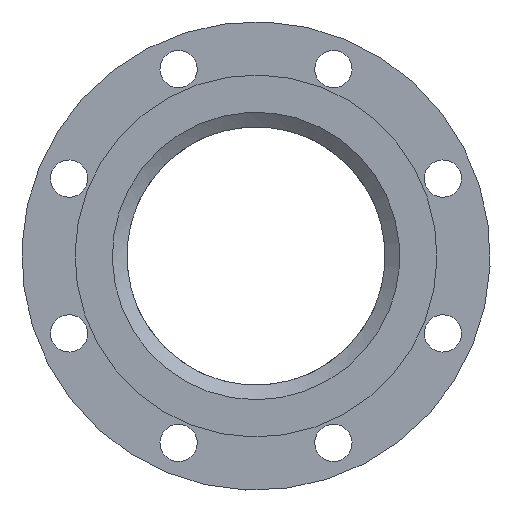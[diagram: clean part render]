
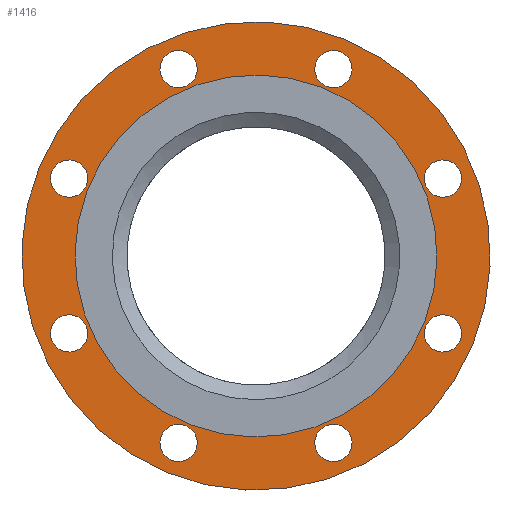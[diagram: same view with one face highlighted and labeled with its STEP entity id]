
A CAD part, front view. The second image highlights one B-rep face of the part: STEP entity #1416.
In plain terms, the highlighted planar face has unit normal (0, -1, 0).
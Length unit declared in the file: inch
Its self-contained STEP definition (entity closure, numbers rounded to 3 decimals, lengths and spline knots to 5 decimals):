
#54=PLANE('',#1554);
#126=FACE_BOUND('',#399,.T.);
#127=FACE_BOUND('',#400,.T.);
#128=FACE_BOUND('',#401,.T.);
#129=FACE_BOUND('',#402,.T.);
#130=FACE_BOUND('',#403,.T.);
#131=FACE_BOUND('',#404,.T.);
#132=FACE_BOUND('',#405,.T.);
#133=FACE_BOUND('',#406,.T.);
#134=FACE_BOUND('',#407,.T.);
#255=FACE_OUTER_BOUND('',#398,.T.);
#398=EDGE_LOOP('',(#1043));
#399=EDGE_LOOP('',(#1044));
#400=EDGE_LOOP('',(#1045));
#401=EDGE_LOOP('',(#1046));
#402=EDGE_LOOP('',(#1047));
#403=EDGE_LOOP('',(#1048));
#404=EDGE_LOOP('',(#1049));
#405=EDGE_LOOP('',(#1050));
#406=EDGE_LOOP('',(#1051));
#407=EDGE_LOOP('',(#1052));
#635=CIRCLE('',#1555,5.5);
#636=CIRCLE('',#1556,0.4375);
#637=CIRCLE('',#1557,0.4375);
#638=CIRCLE('',#1558,0.4375);
#639=CIRCLE('',#1559,0.4375);
#640=CIRCLE('',#1560,0.4375);
#641=CIRCLE('',#1561,0.4375);
#642=CIRCLE('',#1562,0.4375);
#643=CIRCLE('',#1563,0.4375);
#644=CIRCLE('',#1564,4.25);
#764=VERTEX_POINT('',#2307);
#765=VERTEX_POINT('',#2309);
#766=VERTEX_POINT('',#2311);
#767=VERTEX_POINT('',#2313);
#768=VERTEX_POINT('',#2315);
#769=VERTEX_POINT('',#2317);
#770=VERTEX_POINT('',#2319);
#771=VERTEX_POINT('',#2321);
#772=VERTEX_POINT('',#2323);
#773=VERTEX_POINT('',#2325);
#893=EDGE_CURVE('',#764,#764,#635,.T.);
#894=EDGE_CURVE('',#765,#765,#636,.T.);
#895=EDGE_CURVE('',#766,#766,#637,.T.);
#896=EDGE_CURVE('',#767,#767,#638,.T.);
#897=EDGE_CURVE('',#768,#768,#639,.T.);
#898=EDGE_CURVE('',#769,#769,#640,.T.);
#899=EDGE_CURVE('',#770,#770,#641,.T.);
#900=EDGE_CURVE('',#771,#771,#642,.T.);
#901=EDGE_CURVE('',#772,#772,#643,.T.);
#902=EDGE_CURVE('',#773,#773,#644,.T.);
#1043=ORIENTED_EDGE('',*,*,#893,.T.);
#1044=ORIENTED_EDGE('',*,*,#894,.T.);
#1045=ORIENTED_EDGE('',*,*,#895,.T.);
#1046=ORIENTED_EDGE('',*,*,#896,.T.);
#1047=ORIENTED_EDGE('',*,*,#897,.T.);
#1048=ORIENTED_EDGE('',*,*,#898,.T.);
#1049=ORIENTED_EDGE('',*,*,#899,.T.);
#1050=ORIENTED_EDGE('',*,*,#900,.T.);
#1051=ORIENTED_EDGE('',*,*,#901,.T.);
#1052=ORIENTED_EDGE('',*,*,#902,.F.);
#1416=ADVANCED_FACE('',(#255,#126,#127,#128,#129,#130,#131,#132,#133,#134),
#54,.T.);
#1554=AXIS2_PLACEMENT_3D('',#2306,#1835,#1836);
#1555=AXIS2_PLACEMENT_3D('',#2308,#1837,#1838);
#1556=AXIS2_PLACEMENT_3D('',#2310,#1839,#1840);
#1557=AXIS2_PLACEMENT_3D('',#2312,#1841,#1842);
#1558=AXIS2_PLACEMENT_3D('',#2314,#1843,#1844);
#1559=AXIS2_PLACEMENT_3D('',#2316,#1845,#1846);
#1560=AXIS2_PLACEMENT_3D('',#2318,#1847,#1848);
#1561=AXIS2_PLACEMENT_3D('',#2320,#1849,#1850);
#1562=AXIS2_PLACEMENT_3D('',#2322,#1851,#1852);
#1563=AXIS2_PLACEMENT_3D('',#2324,#1853,#1854);
#1564=AXIS2_PLACEMENT_3D('',#2326,#1855,#1856);
#1835=DIRECTION('center_axis',(0.,-1.,0.));
#1836=DIRECTION('ref_axis',(-0.924,0.,0.383));
#1837=DIRECTION('center_axis',(0.,-1.,0.));
#1838=DIRECTION('ref_axis',(-0.924,0.,0.383));
#1839=DIRECTION('center_axis',(0.,1.,0.));
#1840=DIRECTION('ref_axis',(-0.924,0.,-0.383));
#1841=DIRECTION('center_axis',(0.,1.,0.));
#1842=DIRECTION('ref_axis',(-0.383,0.,-0.924));
#1843=DIRECTION('center_axis',(0.,1.,0.));
#1844=DIRECTION('ref_axis',(0.383,0.,-0.924));
#1845=DIRECTION('center_axis',(0.,1.,0.));
#1846=DIRECTION('ref_axis',(0.924,0.,-0.383));
#1847=DIRECTION('center_axis',(0.,1.,0.));
#1848=DIRECTION('ref_axis',(0.924,0.,0.383));
#1849=DIRECTION('center_axis',(0.,1.,0.));
#1850=DIRECTION('ref_axis',(0.383,0.,0.924));
#1851=DIRECTION('center_axis',(0.,1.,0.));
#1852=DIRECTION('ref_axis',(-0.383,0.,0.924));
#1853=DIRECTION('center_axis',(0.,1.,0.));
#1854=DIRECTION('ref_axis',(-0.924,0.,0.383));
#1855=DIRECTION('center_axis',(0.,-1.,0.));
#1856=DIRECTION('ref_axis',(-0.857,0.,0.515));
#2306=CARTESIAN_POINT('Origin',(0.,0.5,
0.));
#2307=CARTESIAN_POINT('',(5.08134,0.5,-2.10476));
#2308=CARTESIAN_POINT('Origin',(0.,0.5,
0.));
#2309=CARTESIAN_POINT('',(1.41355,0.5,-4.55585));
#2310=CARTESIAN_POINT('Origin',(1.81775,0.5,-4.38843));
#2311=CARTESIAN_POINT('',(4.221,0.5,-2.22194));
#2312=CARTESIAN_POINT('Origin',(4.38843,0.5,-1.81775));
#2313=CARTESIAN_POINT('',(4.55585,0.5,1.41355));
#2314=CARTESIAN_POINT('Origin',(4.38843,0.5,1.81775));
#2315=CARTESIAN_POINT('',(2.22194,0.5,4.221));
#2316=CARTESIAN_POINT('Origin',(1.81775,0.5,4.38843));
#2317=CARTESIAN_POINT('',(-1.41355,0.5,4.55585));
#2318=CARTESIAN_POINT('Origin',(-1.81775,0.5,4.38843));
#2319=CARTESIAN_POINT('',(-4.221,0.5,2.22194));
#2320=CARTESIAN_POINT('Origin',(-4.38843,0.5,1.81775));
#2321=CARTESIAN_POINT('',(-4.55585,0.5,-1.41355));
#2322=CARTESIAN_POINT('Origin',(-4.38843,0.5,-1.81775));
#2323=CARTESIAN_POINT('',(-2.22194,0.5,-4.221));
#2324=CARTESIAN_POINT('Origin',(-1.81775,0.5,-4.38843));
#2325=CARTESIAN_POINT('',(3.6441,0.5,-2.18702));
#2326=CARTESIAN_POINT('Origin',(0.,0.5,0.));
